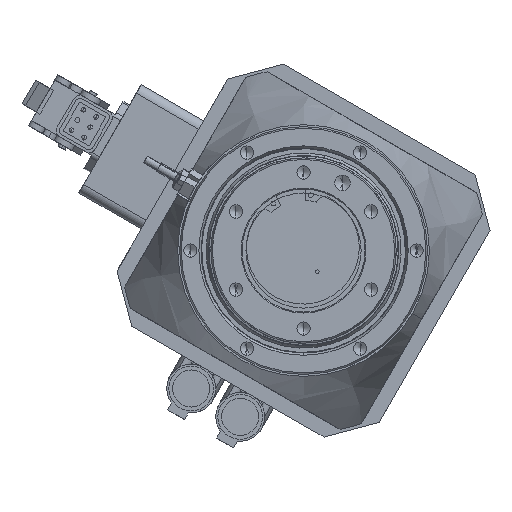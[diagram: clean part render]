
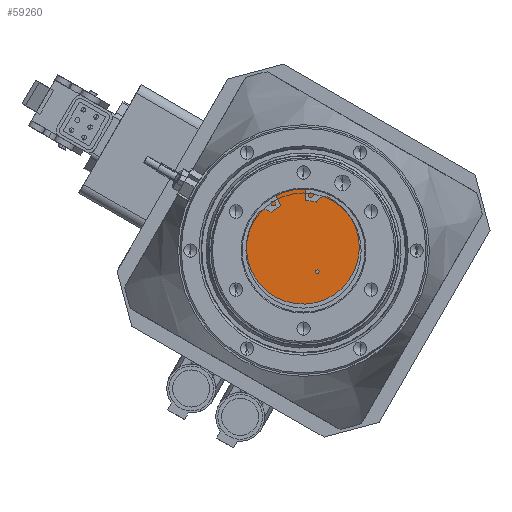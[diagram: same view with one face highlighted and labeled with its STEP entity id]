
A CAD part, front view. The second image highlights one B-rep face of the part: STEP entity #59260.
In plain terms, the highlighted planar face has unit normal (0, -1, 0).
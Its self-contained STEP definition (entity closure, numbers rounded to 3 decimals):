
#134 = CIRCLE ( 'NONE', #60748, 31.5 ) ;
#1552 = CARTESIAN_POINT ( 'NONE',  ( 71.219, -247.879, 97.194 ) ) ;
#2608 = DIRECTION ( 'NONE',  ( 0., 1., 0. ) ) ;
#2834 = CARTESIAN_POINT ( 'NONE',  ( 71.219, -247.879, 65.694 ) ) ;
#5606 = FACE_BOUND ( 'NONE', #33223, .T. ) ;
#6665 = AXIS2_PLACEMENT_3D ( 'NONE', #1552, #26304, #20813 ) ;
#12496 = DIRECTION ( 'NONE',  ( 0., 1., 0. ) ) ;
#15109 = DIRECTION ( 'NONE',  ( 0., 1., 0. ) ) ;
#17747 = VERTEX_POINT ( 'NONE', #49216 ) ;
#18567 = PLANE ( 'NONE',  #64803 ) ;
#20165 = VERTEX_POINT ( 'NONE', #53007 ) ;
#20813 = DIRECTION ( 'NONE',  ( 0., 0., 1. ) ) ;
#26304 = DIRECTION ( 'NONE',  ( 0., 1., 0. ) ) ;
#28278 = CARTESIAN_POINT ( 'NONE',  ( 71.219, -247.879, 97.194 ) ) ;
#29349 = CIRCLE ( 'NONE', #29635, 1. ) ;
#29635 = AXIS2_PLACEMENT_3D ( 'NONE', #53327, #2608, #52888 ) ;
#29922 = CARTESIAN_POINT ( 'NONE',  ( 71.219, -247.879, 97.194 ) ) ;
#32609 = VERTEX_POINT ( 'NONE', #40721 ) ;
#33223 = EDGE_LOOP ( 'NONE', ( #41353, #38080 ) ) ;
#33353 = AXIS2_PLACEMENT_3D ( 'NONE', #48351, #12496, #58335 ) ;
#33411 = DIRECTION ( 'NONE',  ( 0., 1., 0. ) ) ;
#35243 = EDGE_CURVE ( 'NONE', #20165, #61843, #134, .T. ) ;
#35691 = DIRECTION ( 'NONE',  ( 0., 0., 1. ) ) ;
#38080 = ORIENTED_EDGE ( 'NONE', *, *, #62453, .T. ) ;
#40721 = CARTESIAN_POINT ( 'NONE',  ( 78.16, -247.879, 87.367 ) ) ;
#41353 = ORIENTED_EDGE ( 'NONE', *, *, #51576, .T. ) ;
#42042 = FACE_OUTER_BOUND ( 'NONE', #55847, .T. ) ;
#42186 = CIRCLE ( 'NONE', #6665, 31.5 ) ;
#45598 = CIRCLE ( 'NONE', #33353, 1. ) ;
#48351 = CARTESIAN_POINT ( 'NONE',  ( 78.16, -247.879, 86.367 ) ) ;
#49216 = CARTESIAN_POINT ( 'NONE',  ( 78.16, -247.879, 85.367 ) ) ;
#51576 = EDGE_CURVE ( 'NONE', #17747, #32609, #29349, .T. ) ;
#51831 = ORIENTED_EDGE ( 'NONE', *, *, #64006, .F. ) ;
#52347 = ORIENTED_EDGE ( 'NONE', *, *, #35243, .F. ) ;
#52888 = DIRECTION ( 'NONE',  ( 0., 0., 1. ) ) ;
#53007 = CARTESIAN_POINT ( 'NONE',  ( 71.219, -247.879, 128.694 ) ) ;
#53327 = CARTESIAN_POINT ( 'NONE',  ( 78.16, -247.879, 86.367 ) ) ;
#54238 = DIRECTION ( 'NONE',  ( 0., 0., 1. ) ) ;
#55847 = EDGE_LOOP ( 'NONE', ( #51831, #52347 ) ) ;
#58335 = DIRECTION ( 'NONE',  ( 0., 0., 1. ) ) ;
#59260 = ADVANCED_FACE ( 'NONE', ( #42042, #5606 ), #18567, .F. ) ;
#60748 = AXIS2_PLACEMENT_3D ( 'NONE', #29922, #15109, #35691 ) ;
#61843 = VERTEX_POINT ( 'NONE', #2834 ) ;
#62453 = EDGE_CURVE ( 'NONE', #32609, #17747, #45598, .T. ) ;
#64006 = EDGE_CURVE ( 'NONE', #61843, #20165, #42186, .T. ) ;
#64803 = AXIS2_PLACEMENT_3D ( 'NONE', #28278, #33411, #54238 ) ;
